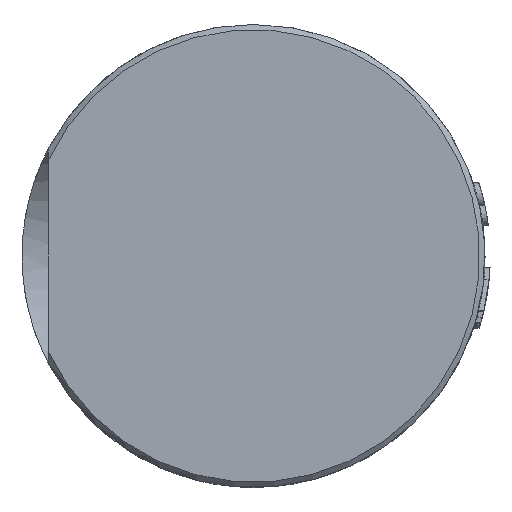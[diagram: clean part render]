
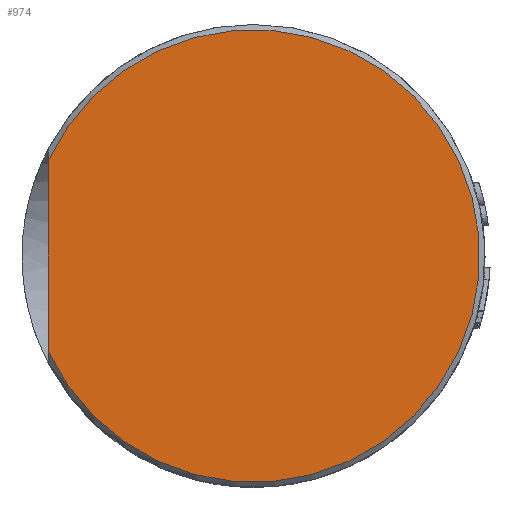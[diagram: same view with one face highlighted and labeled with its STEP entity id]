
A CAD part, front view. The second image highlights one B-rep face of the part: STEP entity #974.
In plain terms, the highlighted planar face has unit normal (0, -1, 0).
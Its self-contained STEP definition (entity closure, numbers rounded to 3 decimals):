
#267=CIRCLE('',#6391,21.5);
#559=PLANE('',#6393);
#687=LINE('',#26468,#1343);
#974=ADVANCED_FACE('',(#1636),#559,.T.);
#1343=VECTOR('',#7276,1.);
#1636=FACE_OUTER_BOUND('',#1993,.T.);
#1993=EDGE_LOOP('',(#3394,#3395));
#3394=ORIENTED_EDGE('',*,*,#5280,.T.);
#3395=ORIENTED_EDGE('',*,*,#5283,.F.);
#4425=VERTEX_POINT('',#26457);
#4426=VERTEX_POINT('',#26458);
#5280=EDGE_CURVE('',#4425,#4426,#267,.T.);
#5283=EDGE_CURVE('',#4425,#4426,#687,.T.);
#6391=AXIS2_PLACEMENT_3D('',#26456,#7272,#7273);
#6393=AXIS2_PLACEMENT_3D('',#26469,#7277,#7278);
#7272=DIRECTION('',(0.,-1.,0.));
#7273=DIRECTION('',(0.,0.,-1.));
#7276=DIRECTION('',(0.,0.,1.));
#7277=DIRECTION('',(0.,-1.,0.));
#7278=DIRECTION('',(0.,0.,1.));
#26456=CARTESIAN_POINT('',(0.,-35.,0.));
#26457=CARTESIAN_POINT('',(-19.5,-35.,-9.055));
#26458=CARTESIAN_POINT('',(-19.5,-35.,9.055));
#26468=CARTESIAN_POINT('',(-19.5,-35.,0.));
#26469=CARTESIAN_POINT('',(22.,-35.,0.));
